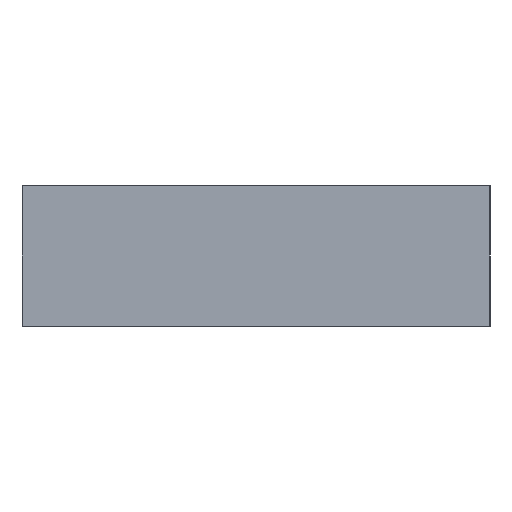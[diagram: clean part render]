
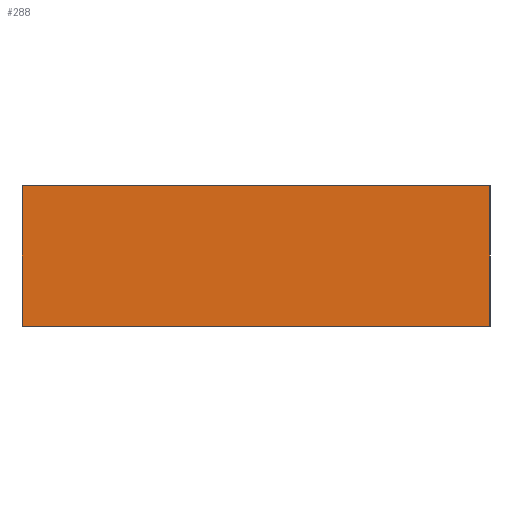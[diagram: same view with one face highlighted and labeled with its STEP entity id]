
A CAD part, left-side view. The second image highlights one B-rep face of the part: STEP entity #288.
In plain terms, the highlighted planar face has unit normal (-1, 0, 0).
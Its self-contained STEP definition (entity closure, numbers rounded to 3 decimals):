
#158=ORIENTED_EDGE('',*,*,#208,.T.);
#159=ORIENTED_EDGE('',*,*,#199,.T.);
#160=ORIENTED_EDGE('',*,*,#203,.T.);
#161=ORIENTED_EDGE('',*,*,#206,.T.);
#167=VECTOR('',#225,1.);
#171=VECTOR('',#231,1.);
#174=VECTOR('',#236,1.);
#176=VECTOR('',#240,1.);
#179=LINE('',#251,#167);
#183=LINE('',#259,#171);
#186=LINE('',#265,#174);
#188=LINE('',#268,#176);
#191=VERTEX_POINT('',#248);
#192=VERTEX_POINT('',#250);
#195=VERTEX_POINT('',#257);
#197=VERTEX_POINT('',#263);
#199=EDGE_CURVE('',#192,#191,#179,.T.);
#203=EDGE_CURVE('',#191,#195,#183,.T.);
#206=EDGE_CURVE('',#195,#197,#186,.T.);
#208=EDGE_CURVE('',#197,#192,#188,.T.);
#214=EDGE_LOOP('',(#158,#159,#160,#161));
#220=FACE_BOUND('',#214,.T.);
#225=DIRECTION('',(0.,-50.,0.));
#231=DIRECTION('',(0.,0.,15.));
#236=DIRECTION('',(0.,50.,0.));
#240=DIRECTION('',(0.,0.,-15.));
#242=DIRECTION('',(-1.,0.,0.));
#243=DIRECTION('',(0.,1.,0.));
#248=CARTESIAN_POINT('',(-70.,0.,-15.));
#250=CARTESIAN_POINT('',(-70.,50.,-15.));
#251=CARTESIAN_POINT('',(-70.,50.,-15.));
#257=CARTESIAN_POINT('',(-70.,0.,0.));
#259=CARTESIAN_POINT('',(-70.,0.,-15.));
#263=CARTESIAN_POINT('',(-70.,50.,0.));
#265=CARTESIAN_POINT('',(-70.,0.,0.));
#268=CARTESIAN_POINT('',(-70.,50.,0.));
#270=CARTESIAN_POINT('',(-70.,50.,0.));
#276=AXIS2_PLACEMENT_3D('',#270,#242,#243);
#282=PLANE('',#276);
#288=ADVANCED_FACE('',(#220),#282,.T.);
